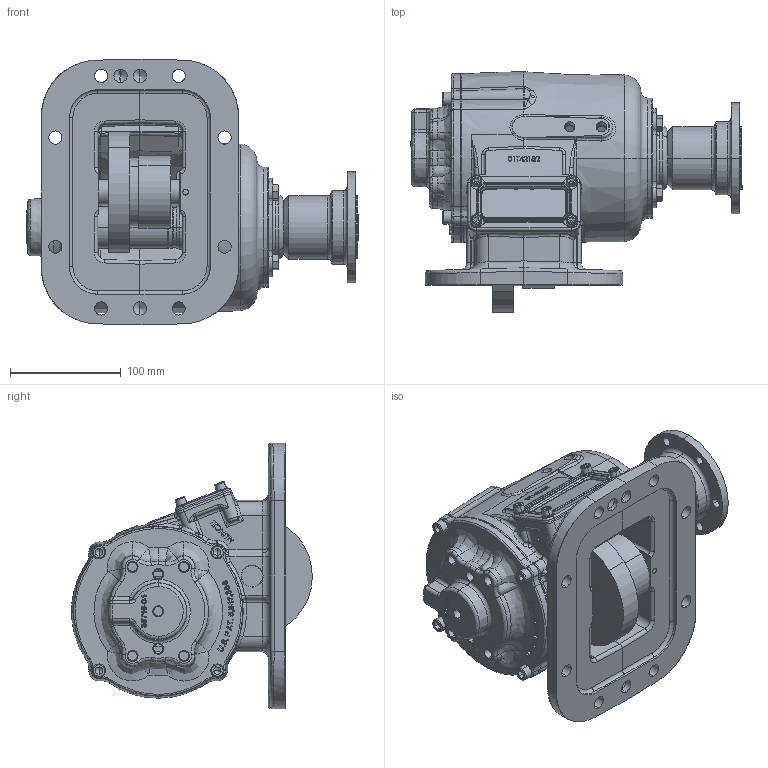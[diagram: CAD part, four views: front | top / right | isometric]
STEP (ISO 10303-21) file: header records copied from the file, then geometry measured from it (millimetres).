
FILE_DESCRIPTION (( 'STEP AP203' ), '1' );
FILE_NAME ('CS8S-XXXXX-X12X.STEP', '2012-06-01T18:19:54', ( '' ), ( '' ), 'SwSTEP 2.0', 'SolidWorks 2012', '' );
FILE_SCHEMA (( 'CONFIG_CONTROL_DESIGN' ));
Length unit declared in the file: millimetre
Products named in the file (6): CS8S-XXXXX-X12X; 19T33233; 14T37378; 15T34576; 06t37372a; CS8S-XXXXX-X1XX
Assembly tree (8 placements, depth 2):
  CS8S-XXXXX-X12X
    CS8S-XXXXX-X1XX
    06t37372a
    15T34576
    14T37378
    19T33233  x4
Bounding box: 299.11 x 216.73 x 239.61 mm (x, y, z)
Volume: 2094254.6 mm3; surface area: 480587.1 mm2
Topology: 6 solids, 26 shells, 2238 faces, 5525 edges, 3400 vertices
Faces by surface type: bspline 730, plane 614, cylinder 507, cone 261, torus 120, sphere 6
Entity records: 110884 total; most frequent: CARTESIAN_POINT 64608, ORIENTED_EDGE 10460, DIRECTION 7891, EDGE_CURVE 5231, VERTEX_POINT 3268, AXIS2_PLACEMENT_3D 2925, EDGE_LOOP 2368, ADVANCED_FACE 2139
